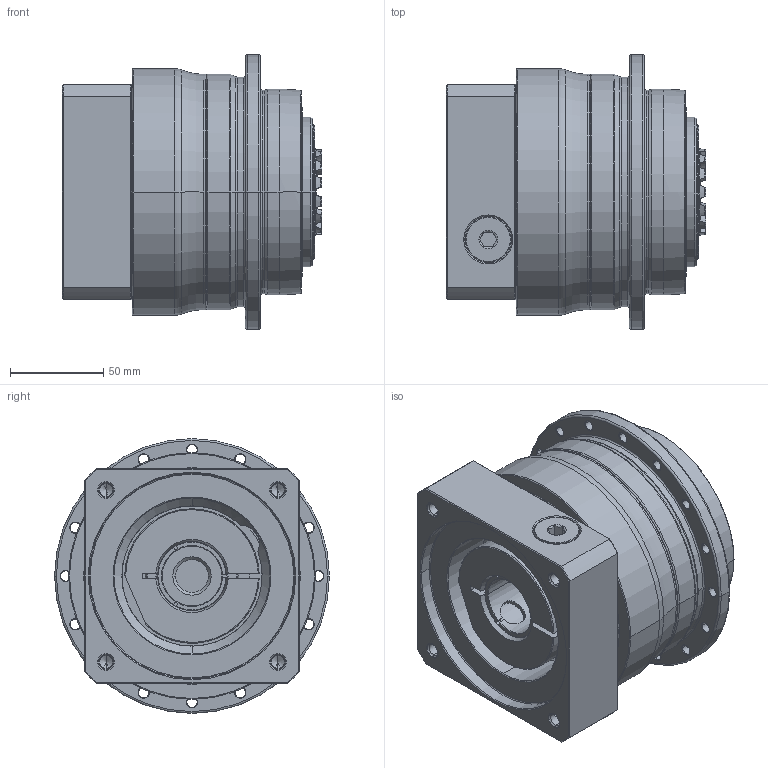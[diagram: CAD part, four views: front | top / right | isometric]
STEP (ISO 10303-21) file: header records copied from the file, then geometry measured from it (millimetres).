
FILE_DESCRIPTION((''),'2;1');
FILE_NAME('APC110_1ST_32-P0409710201_ASM','2018-06-08T',('d01226'),(''),'PRO/ENGINEER BY PARAMETRIC TECHNOLOGY CORPORATION, 2008410','PRO/ENGINEER BY PARAMETRIC TECHNOLOGY CORPORATION, 2008410','');
FILE_SCHEMA(('CONFIG_CONTROL_DESIGN'));
Length unit declared in the file: millimetre
Products named in the file (9): P0278400003; P03594C0103; P1318410301; P0503700010; P0912453001; P1211400001; P0409710201; 21711418017; APC110_1ST_32-P0409710201_ASM
Assembly tree (8 placements, depth 2):
  APC110_1ST_32-P0409710201_ASM
    P0278400003
    P03594C0103
    P1318410301
    P0503700010
    P0912453001
    P1211400001
    P0409710201
    21711418017
Bounding box: 138.9 x 147 x 147 mm (x, y, z)
Volume: 1482070.7 mm3; surface area: 243289.6 mm2
Topology: 9 solids, 20 shells, 616 faces, 1481 edges, 905 vertices
Faces by surface type: cylinder 195, cone 191, plane 119, torus 97, bspline 14
Entity records: 23228 total; most frequent: CARTESIAN_POINT 8527, DIRECTION 3279, ORIENTED_EDGE 2884, EDGE_CURVE 1463, AXIS2_PLACEMENT_3D 1424, VERTEX_POINT 905, CIRCLE 795, EDGE_LOOP 702
